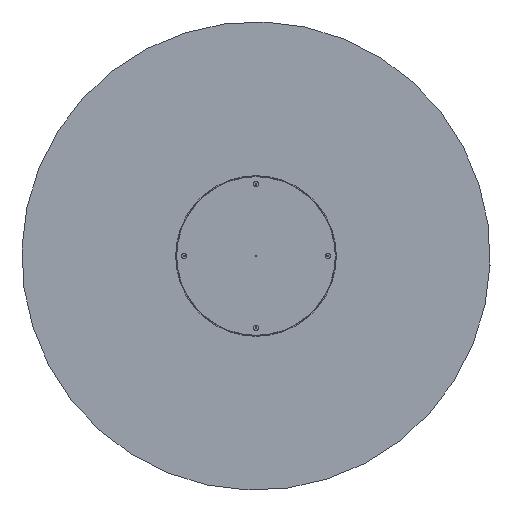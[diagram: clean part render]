
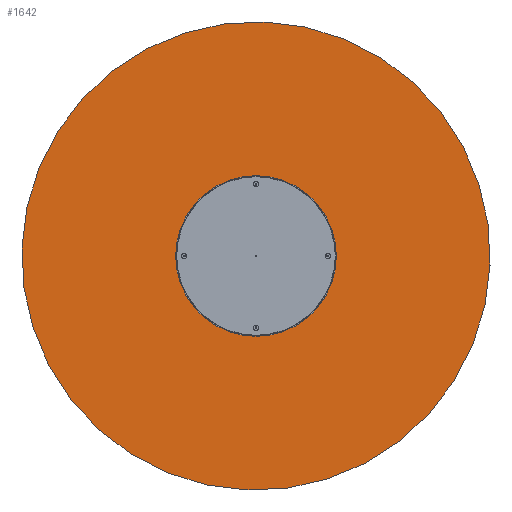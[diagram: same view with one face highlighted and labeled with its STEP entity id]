
A CAD part, front view. The second image highlights one B-rep face of the part: STEP entity #1642.
In plain terms, the highlighted planar face has unit normal (0, -1, 0).
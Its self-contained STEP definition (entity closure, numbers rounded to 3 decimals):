
#82 = EDGE_LOOP ( 'NONE', ( #206, #1344 ) ) ;
#206 = ORIENTED_EDGE ( 'NONE', *, *, #2377, .T. ) ;
#1063 = CARTESIAN_POINT ( 'NONE',  ( 0., 0., 700. ) ) ;
#1344 = ORIENTED_EDGE ( 'NONE', *, *, #9641, .T. ) ;
#1642 = ADVANCED_FACE ( 'NONE', ( #4201 ), #7641, .T. ) ;
#2377 = EDGE_CURVE ( 'NONE', #4367, #3871, #9480, .T. ) ;
#2908 = DIRECTION ( 'NONE',  ( 0., 0., -1. ) ) ;
#3092 = DIRECTION ( 'NONE',  ( 0., 0., -1. ) ) ;
#3158 = DIRECTION ( 'NONE',  ( 0., -1., 0. ) ) ;
#3514 = AXIS2_PLACEMENT_3D ( 'NONE', #14536, #9987, #10954 ) ;
#3871 = VERTEX_POINT ( 'NONE', #1063 ) ;
#4201 = FACE_OUTER_BOUND ( 'NONE', #82, .T. ) ;
#4367 = VERTEX_POINT ( 'NONE', #9986 ) ;
#7641 = PLANE ( 'NONE',  #14721 ) ;
#8633 = CARTESIAN_POINT ( 'NONE',  ( 0., 0., 0. ) ) ;
#9021 = CIRCLE ( 'NONE', #11664, 700. ) ;
#9480 = CIRCLE ( 'NONE', #3514, 700. ) ;
#9641 = EDGE_CURVE ( 'NONE', #3871, #4367, #9021, .T. ) ;
#9986 = CARTESIAN_POINT ( 'NONE',  ( 0., 0., -700. ) ) ;
#9987 = DIRECTION ( 'NONE',  ( 0., -1., 0. ) ) ;
#10883 = DIRECTION ( 'NONE',  ( 0., -1., 0. ) ) ;
#10954 = DIRECTION ( 'NONE',  ( 0., 0., -1. ) ) ;
#11664 = AXIS2_PLACEMENT_3D ( 'NONE', #8633, #10883, #2908 ) ;
#13400 = CARTESIAN_POINT ( 'NONE',  ( 0., 0., 0. ) ) ;
#14536 = CARTESIAN_POINT ( 'NONE',  ( 0., 0., 0. ) ) ;
#14721 = AXIS2_PLACEMENT_3D ( 'NONE', #13400, #3158, #3092 ) ;
